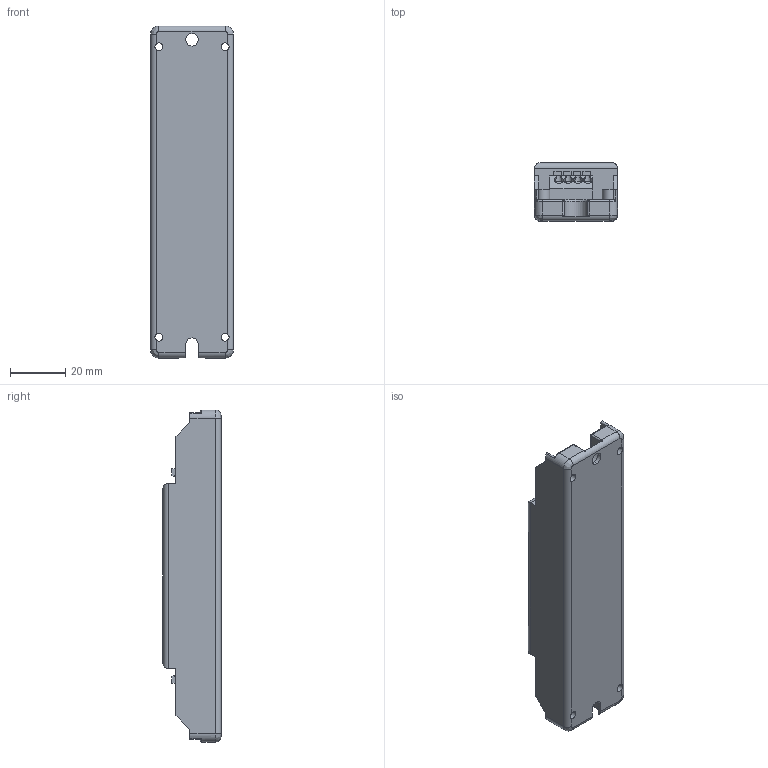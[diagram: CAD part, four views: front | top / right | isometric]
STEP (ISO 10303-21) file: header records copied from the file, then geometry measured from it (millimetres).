
FILE_DESCRIPTION((''),'2;1');
FILE_NAME('15013756Z_DMEC_PLC4P_120X30X21','2020-05-18T08:51:31',('Juergen.Hrach'),(''),'CREO PARAMETRIC BY PTC INC, 2019164','CREO PARAMETRIC BY PTC INC, 2019164','');
FILE_SCHEMA(('CONFIG_CONTROL_DESIGN'));
Length unit declared in the file: millimetre
Products named in the file (1): 15013756Z_DMEC_PLC4P_120X30X21
Bounding box: 30 x 21 x 120 mm (x, y, z)
Volume: 55744.9 mm3; surface area: 15550.3 mm2
Topology: 1 solids, 1 shells, 222 faces, 606 edges, 392 vertices
Faces by surface type: plane 142, cylinder 62, torus 10, bspline 4, sphere 4
Entity records: 7202 total; most frequent: CARTESIAN_POINT 1564, ORIENTED_EDGE 1212, DIRECTION 1108, EDGE_CURVE 606, VECTOR 396, LINE 396, VERTEX_POINT 392, AXIS2_PLACEMENT_3D 356
